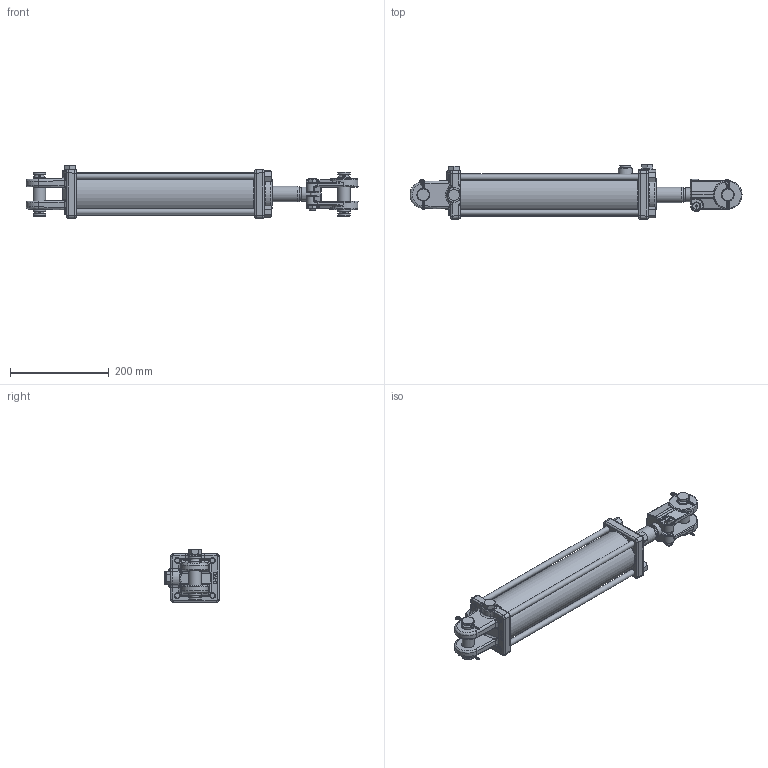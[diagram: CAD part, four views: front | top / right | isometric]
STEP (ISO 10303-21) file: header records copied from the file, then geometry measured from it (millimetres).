
FILE_DESCRIPTION((''),'2;1');
FILE_NAME('C:\Vault\Workspace\Vest\PMS-AM-2576.stp','2010-09-29T11:47:27',('kneifld'),(''),'Autodesk Inventor 2010','Autodesk Inventor 2010','');
FILE_SCHEMA(('AUTOMOTIVE_DESIGN { 1 0 10303 214 1 1 1 1 }'));
Length unit declared in the file: inch
Products named in the file (29): PMS-AM-2576; 061500535; 051500581; 200300181V; 1415005SFV; 010600379; 100000423V; 100000422V; 170002104V; 220000203V; 071500397V; 220000209V; 190400001V; 220001504V; 240011095V; 240064300V; 240000026V; 240061232V; 240000232V; 081500337V; 081500338V; 210600293V; 250014125V; 240020184V; 170201163; 800005001_16.375; 220000105V; 200300040V; 200300104V
Assembly tree (39 placements, depth 3):
  PMS-AM-2576
    061500535
      051500581
      200300181V
    1415005SFV
    010600379
    100000423V
      100000422V
      170002104V
      220000203V
    071500397V
    220000209V
    190400001V  x2
    220001504V  x4
    240011095V
    240064300V
    240000026V
    240061232V  x2
    240000232V  x2
    081500337V
      081500338V
      210600293V
    250014125V
    240020184V
    170201163  x4
      800005001_16.375
      220000105V
    200300040V  x3
    200300104V
Bounding box: 671.4 x 110.29 x 106.98 mm (x, y, z)
Volume: 1955721.4 mm3; surface area: 527564.4 mm2
Topology: 38 solids, 38 shells, 1137 faces, 2648 edges, 1599 vertices
Faces by surface type: plane 351, bspline 320, cylinder 255, cone 163, torus 31, sphere 17
Full cylindrical faces by diameter (mm): 1.575 x1, 2.769 x1, 5.159 x4, 9.493 x1, 10.319 x2, 11.43 x4, 16.764 x3, 19.05 x4, 22.174 x1, 22.301 x1, 22.352 x1, 25.4 x6, 25.781 x4, 25.806 x1, 28.372 x1, 28.575 x1, 31.725 x2, 31.75 x2, 32.004 x1, 32.702 x1, 33.376 x1, 34.188 x1, 34.798 x1, 35.707 x1, 35.719 x1, 37.948 x1, 38.964 x1, 40.323 x1, 40.488 x1, 41.173 x1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
Entity records: 33159 total; most frequent: CARTESIAN_POINT 13055, ORIENTED_EDGE 3972, DIRECTION 3701, EDGE_CURVE 1986, AXIS2_PLACEMENT_3D 1507, VERTEX_POINT 1289, EDGE_LOOP 1193, FACE_OUTER_BOUND 934
